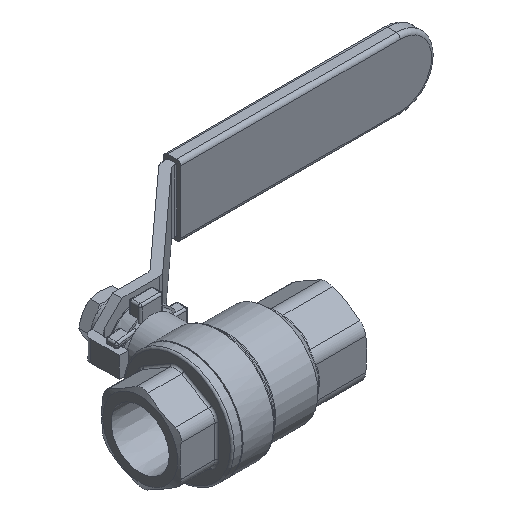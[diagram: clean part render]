
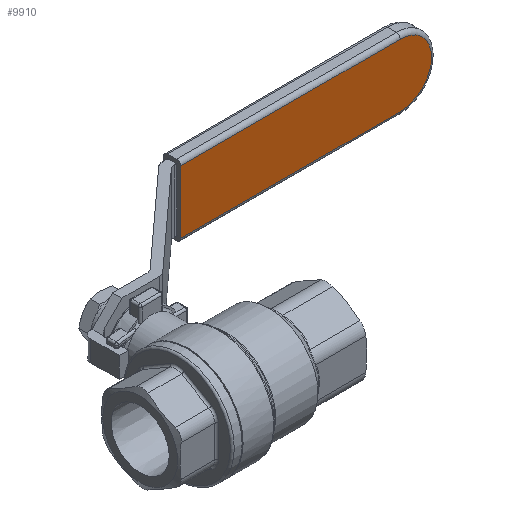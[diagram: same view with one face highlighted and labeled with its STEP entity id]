
A CAD part, isometric view. The second image highlights one B-rep face of the part: STEP entity #9910.
In plain terms, the highlighted planar face has unit normal (0, -1, 0) as drawn and (0, 0, -1) by its records, which use the part's own axes.
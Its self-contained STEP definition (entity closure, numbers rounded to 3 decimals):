
#9802=CARTESIAN_POINT('',(0.,1.,0.0));
#9803=VERTEX_POINT('',#9802);
#9811=CARTESIAN_POINT('',(56.,1.0,0.0));
#9812=VERTEX_POINT('',#9811);
#9813=CARTESIAN_POINT('',(0.0,1.0,0.0));
#9814=DIRECTION('',(1.0,0.0,0.0));
#9815=VECTOR('',#9814,56.);
#9816=LINE('',#9813,#9815);
#9817=EDGE_CURVE('',#9803,#9812,#9816,.T.);
#9842=CARTESIAN_POINT('',(56.,17.0,0.0));
#9843=VERTEX_POINT('',#9842);
#9859=CARTESIAN_POINT('',(56.,9.,0.0));
#9860=DIRECTION('',(0.0,0.0,1.0));
#9861=DIRECTION('',(1.0,0.0,0.0));
#9862=AXIS2_PLACEMENT_3D('',#9859,#9860,#9861);
#9863=CIRCLE('',#9862,8.0);
#9864=EDGE_CURVE('',#9812,#9843,#9863,.T.);
#9874=CARTESIAN_POINT('',(0.,17.,0.0));
#9875=VERTEX_POINT('',#9874);
#9885=CARTESIAN_POINT('',(56.,17.0,0.0));
#9886=DIRECTION('',(-1.0,0.0,0.0));
#9887=VECTOR('',#9886,56.);
#9888=LINE('',#9885,#9887);
#9889=EDGE_CURVE('',#9843,#9875,#9888,.T.);
#9894=CARTESIAN_POINT('',(32.5,9.0,0.0));
#9895=DIRECTION('',(0.0,0.0,1.0));
#9896=DIRECTION('',(1.0,0.0,0.0));
#9897=AXIS2_PLACEMENT_3D('',#9894,#9895,#9896);
#9898=PLANE('',#9897);
#9899=ORIENTED_EDGE('',*,*,#9889,.F.);
#9900=ORIENTED_EDGE('',*,*,#9864,.F.);
#9901=ORIENTED_EDGE('',*,*,#9817,.F.);
#9902=CARTESIAN_POINT('',(0.,17.,0.0));
#9903=DIRECTION('',(0.0,-1.0,0.0));
#9904=VECTOR('',#9903,16.);
#9905=LINE('',#9902,#9904);
#9906=EDGE_CURVE('',#9875,#9803,#9905,.T.);
#9907=ORIENTED_EDGE('',*,*,#9906,.F.);
#9908=EDGE_LOOP('',(#9899,#9900,#9901,#9907));
#9909=FACE_OUTER_BOUND('',#9908,.T.);
#9910=ADVANCED_FACE('',(#9909),#9898,.F.);
